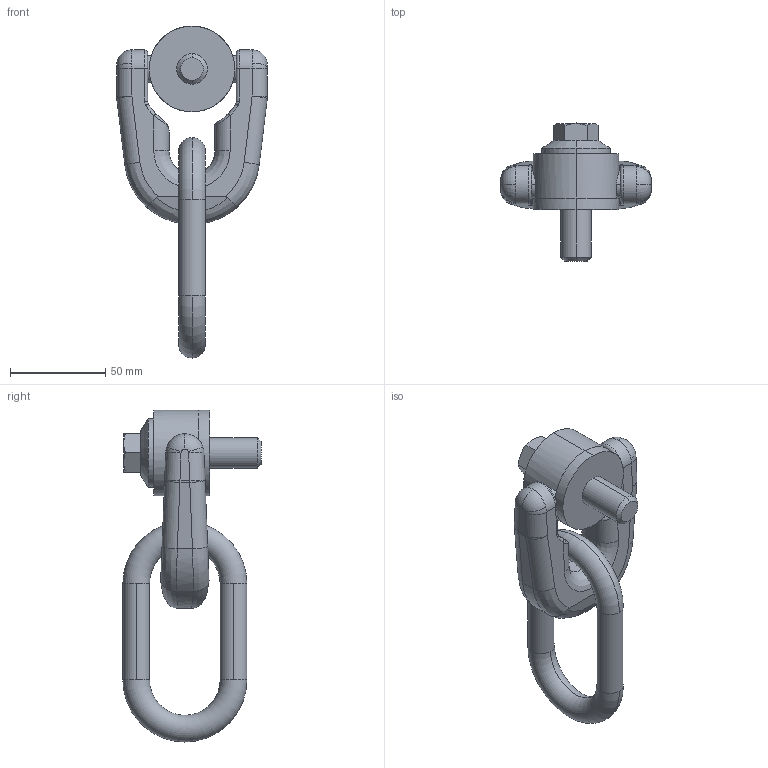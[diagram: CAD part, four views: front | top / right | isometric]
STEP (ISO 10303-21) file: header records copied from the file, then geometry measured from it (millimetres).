
FILE_DESCRIPTION (( 'STEP AP203' ), '1' );
FILE_NAME ('63150.W0016.step', '2013-12-13T11:51:27', ( 'User' ), ( '' ), 'SwSTEP 2.0', 'SolidWorks 2009', '' );
FILE_SCHEMA (( 'CONFIG_CONTROL_DESIGN' ));
Length unit declared in the file: millimetre
Products named in the file (4): 63150.W0016; Part1_63150.W0016; Part2B; Part3_63150.W0016
Assembly tree (3 placements, depth 2):
  63150.W0016
    Part1_63150.W0016
    Part2B
    Part3_63150.W0016
Bounding box: 79 x 72.5 x 174 mm (x, y, z)
Volume: 178676.4 mm3; surface area: 38711 mm2
Topology: 3 solids, 3 shells, 133 faces, 317 edges, 190 vertices
Faces by surface type: cylinder 41, plane 33, bspline 33, torus 12, cone 10, sphere 4
Entity records: 5940 total; most frequent: CARTESIAN_POINT 2688, ORIENTED_EDGE 630, DIRECTION 574, EDGE_CURVE 315, AXIS2_PLACEMENT_3D 233, VERTEX_POINT 190, EDGE_LOOP 139, ADVANCED_FACE 133
